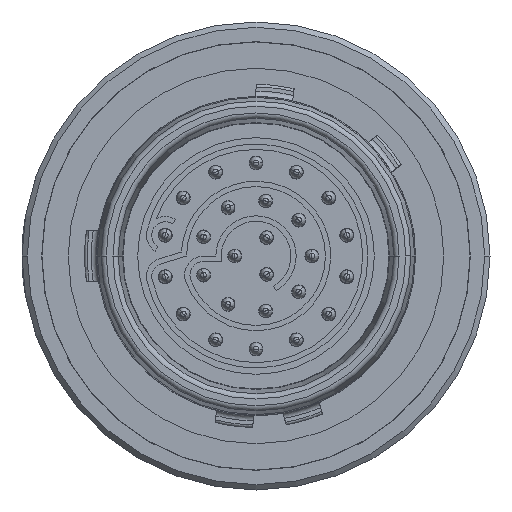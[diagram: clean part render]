
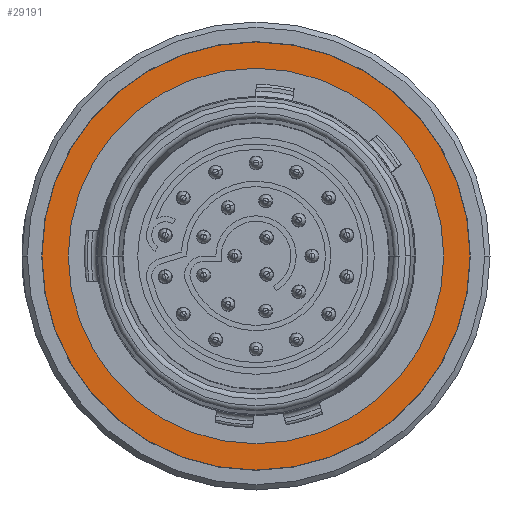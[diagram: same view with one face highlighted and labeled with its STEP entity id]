
A CAD part, left-side view. The second image highlights one B-rep face of the part: STEP entity #29191.
In plain terms, the highlighted planar face has unit normal (-1, 0, 0).
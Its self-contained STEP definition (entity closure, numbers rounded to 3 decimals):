
#1998=CARTESIAN_POINT('',(0.26,0.,0.));
#1999=DIRECTION('',(-1.,0.,0.));
#2000=DIRECTION('',(0.,1.,0.));
#2001=AXIS2_PLACEMENT_3D('',#1998,#1999,#2000);
#2137=CARTESIAN_POINT('',(0.26,0.,0.));
#2138=DIRECTION('',(-1.,0.,0.));
#2139=DIRECTION('',(0.,-1.,0.));
#2140=AXIS2_PLACEMENT_3D('',#2137,#2138,#2139);
#18706=CARTESIAN_POINT('',(0.26,0.,0.));
#18707=DIRECTION('',(1.,0.,0.));
#18708=DIRECTION('',(0.,-1.,0.));
#18709=AXIS2_PLACEMENT_3D('',#18706,#18707,#18708);
#18715=CARTESIAN_POINT('',(0.26,0.,0.));
#18716=DIRECTION('',(-1.,0.,0.));
#18717=DIRECTION('',(0.,-1.,0.));
#18718=AXIS2_PLACEMENT_3D('',#18715,#18716,#18717);
#26729=CARTESIAN_POINT('',(0.26,-8.05,0.));
#26730=CARTESIAN_POINT('',(0.26,8.05,0.));
#26731=VERTEX_POINT('',#26729);
#26732=VERTEX_POINT('',#26730);
#26735=CARTESIAN_POINT('',(0.26,7.06,0.));
#26736=CARTESIAN_POINT('',(0.26,-7.06,0.));
#26737=VERTEX_POINT('',#26735);
#26738=VERTEX_POINT('',#26736);
#29175=CARTESIAN_POINT('',(0.26,0.,0.));
#29176=DIRECTION('',(-1.,0.,0.));
#29177=DIRECTION('',(0.,1.,0.));
#29178=AXIS2_PLACEMENT_3D('',#29175,#29176,#29177);
#29179=PLANE('',#29178);
#29181=ORIENTED_EDGE('',*,*,#29180,.F.);
#29183=ORIENTED_EDGE('',*,*,#29182,.T.);
#29184=EDGE_LOOP('',(#29181,#29183));
#29185=FACE_OUTER_BOUND('',#29184,.F.);
#29186=ORIENTED_EDGE('',*,*,#29158,.T.);
#29188=ORIENTED_EDGE('',*,*,#29187,.T.);
#29189=EDGE_LOOP('',(#29186,#29188));
#29190=FACE_BOUND('',#29189,.F.);
#2002=CIRCLE('',#2001,7.06);
#2141=CIRCLE('',#2140,8.05);
#18710=CIRCLE('',#18709,8.05);
#18719=CIRCLE('',#18718,7.06);
#29158=EDGE_CURVE('',#26737,#26738,#2002,.T.);
#29180=EDGE_CURVE('',#26731,#26732,#2141,.T.);
#29182=EDGE_CURVE('',#26731,#26732,#18710,.T.);
#29187=EDGE_CURVE('',#26738,#26737,#18719,.T.);
#29191=ADVANCED_FACE('',(#29185,#29190),#29179,.T.);
